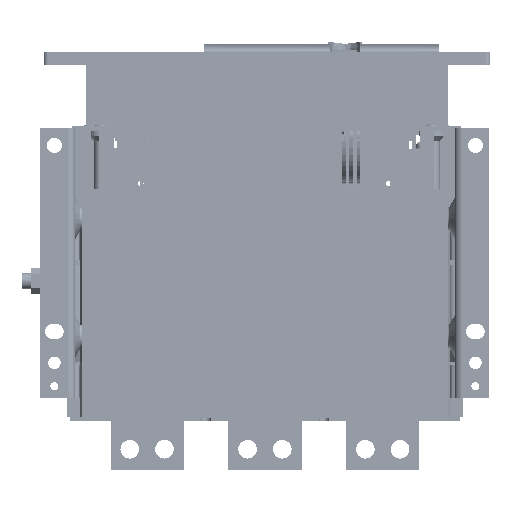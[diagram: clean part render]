
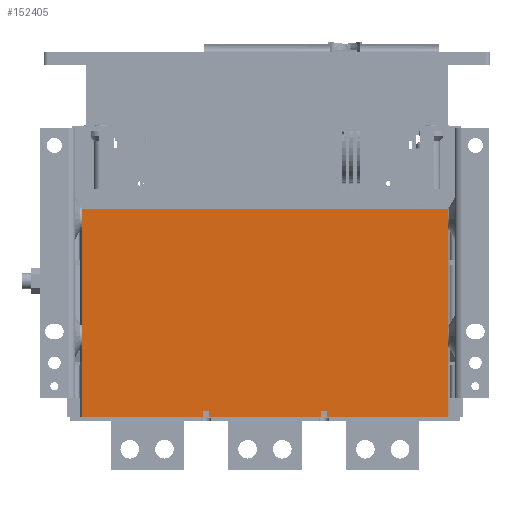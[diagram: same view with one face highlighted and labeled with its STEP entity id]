
A CAD part, front view. The second image highlights one B-rep face of the part: STEP entity #152405.
In plain terms, the highlighted planar face has unit normal (0, -1, 0) as drawn and (1, 0, 0) by its records, which use the part's own axes.
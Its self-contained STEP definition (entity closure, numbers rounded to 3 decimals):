
#2247 = LINE ( 'NONE', #18058, #71244 ) ;
#3174 = LINE ( 'NONE', #189476, #100888 ) ;
#3372 = VECTOR ( 'NONE', #123121, 1000. ) ;
#5387 = ORIENTED_EDGE ( 'NONE', *, *, #109257, .T. ) ;
#5960 = CARTESIAN_POINT ( 'NONE',  ( 358.258, -186.064, -285. ) ) ;
#10998 = CARTESIAN_POINT ( 'NONE',  ( 358.258, -91.064, -289.5 ) ) ;
#11435 = LINE ( 'NONE', #237650, #71003 ) ;
#13085 = DIRECTION ( 'NONE',  ( 0., 1., 0. ) ) ;
#18058 = CARTESIAN_POINT ( 'NONE',  ( 358.258, -181.064, -285. ) ) ;
#22394 = ORIENTED_EDGE ( 'NONE', *, *, #44425, .T. ) ;
#22545 = VECTOR ( 'NONE', #121316, 1000. ) ;
#23539 = CARTESIAN_POINT ( 'NONE',  ( 358.258, -86.064, -289.5 ) ) ;
#27279 = DIRECTION ( 'NONE',  ( 1., 0., 0. ) ) ;
#27827 = ORIENTED_EDGE ( 'NONE', *, *, #185588, .F. ) ;
#31966 = EDGE_CURVE ( 'NONE', #152436, #67648, #158277, .T. ) ;
#32913 = VERTEX_POINT ( 'NONE', #173850 ) ;
#41503 = CARTESIAN_POINT ( 'NONE',  ( 358.258, -91.064, -285. ) ) ;
#41544 = EDGE_CURVE ( 'NONE', #155580, #220242, #191593, .T. ) ;
#44425 = EDGE_CURVE ( 'NONE', #211890, #83813, #216328, .T. ) ;
#45066 = CARTESIAN_POINT ( 'NONE',  ( 358.258, -283.564, -289.5 ) ) ;
#47072 = CARTESIAN_POINT ( 'NONE',  ( 358.258, -86.064, -289.5 ) ) ;
#47800 = PLANE ( 'NONE',  #54264 ) ;
#47820 = ORIENTED_EDGE ( 'NONE', *, *, #139559, .T. ) ;
#54264 = AXIS2_PLACEMENT_3D ( 'NONE', #156708, #27279, #121601 ) ;
#62786 = VERTEX_POINT ( 'NONE', #71015 ) ;
#65114 = VECTOR ( 'NONE', #171157, 1000. ) ;
#66858 = CARTESIAN_POINT ( 'NONE',  ( 358.258, 11.436, -289.5 ) ) ;
#67648 = VERTEX_POINT ( 'NONE', #10998 ) ;
#67684 = VECTOR ( 'NONE', #203012, 1000. ) ;
#67723 = EDGE_LOOP ( 'NONE', ( #47820, #88885, #210046, #22394, #187975, #107531, #160482, #190885, #27827, #120628, #5387, #224756 ) ) ;
#71003 = VECTOR ( 'NONE', #106968, 1000. ) ;
#71015 = CARTESIAN_POINT ( 'NONE',  ( 358.258, -283.564, -122. ) ) ;
#71244 = VECTOR ( 'NONE', #72479, 1000. ) ;
#72479 = DIRECTION ( 'NONE',  ( 0., 0., -1. ) ) ;
#75604 = VERTEX_POINT ( 'NONE', #84113 ) ;
#76542 = EDGE_CURVE ( 'NONE', #83813, #103788, #216311, .T. ) ;
#78632 = DIRECTION ( 'NONE',  ( 0., 1., 0. ) ) ;
#79722 = CARTESIAN_POINT ( 'NONE',  ( 358.258, -86.064, -285. ) ) ;
#83521 = VERTEX_POINT ( 'NONE', #104091 ) ;
#83813 = VERTEX_POINT ( 'NONE', #79722 ) ;
#84113 = CARTESIAN_POINT ( 'NONE',  ( 358.258, -186.064, -289.5 ) ) ;
#85632 = CARTESIAN_POINT ( 'NONE',  ( 358.258, -86.064, -285. ) ) ;
#87503 = CARTESIAN_POINT ( 'NONE',  ( 358.258, -91.064, -289.5 ) ) ;
#87707 = FACE_OUTER_BOUND ( 'NONE', #67723, .T. ) ;
#88885 = ORIENTED_EDGE ( 'NONE', *, *, #31966, .T. ) ;
#89280 = VECTOR ( 'NONE', #13085, 1000. ) ;
#96239 = LINE ( 'NONE', #87503, #164226 ) ;
#100888 = VECTOR ( 'NONE', #167755, 1000. ) ;
#103788 = VERTEX_POINT ( 'NONE', #23539 ) ;
#104091 = CARTESIAN_POINT ( 'NONE',  ( 358.258, -181.064, -285. ) ) ;
#106968 = DIRECTION ( 'NONE',  ( 0., 0., 1. ) ) ;
#107531 = ORIENTED_EDGE ( 'NONE', *, *, #178719, .T. ) ;
#109257 = EDGE_CURVE ( 'NONE', #75604, #169786, #124383, .T. ) ;
#118853 = LINE ( 'NONE', #45066, #165675 ) ;
#120628 = ORIENTED_EDGE ( 'NONE', *, *, #149466, .T. ) ;
#121316 = DIRECTION ( 'NONE',  ( 0., 0., 1. ) ) ;
#121459 = VECTOR ( 'NONE', #236899, 1000. ) ;
#121601 = DIRECTION ( 'NONE',  ( 0., 1., 0. ) ) ;
#123121 = DIRECTION ( 'NONE',  ( 0., 0., -1. ) ) ;
#124366 = CARTESIAN_POINT ( 'NONE',  ( 358.258, -181.064, -289.5 ) ) ;
#124383 = LINE ( 'NONE', #147303, #67684 ) ;
#130080 = LINE ( 'NONE', #186963, #65114 ) ;
#138884 = CARTESIAN_POINT ( 'NONE',  ( 358.258, 11.436, -289.5 ) ) ;
#139559 = EDGE_CURVE ( 'NONE', #83521, #152436, #2247, .T. ) ;
#147303 = CARTESIAN_POINT ( 'NONE',  ( 358.258, -186.064, -289.5 ) ) ;
#149466 = EDGE_CURVE ( 'NONE', #32913, #75604, #118853, .T. ) ;
#152405 = ADVANCED_FACE ( 'NONE', ( #87707 ), #47800, .T. ) ;
#152436 = VERTEX_POINT ( 'NONE', #212386 ) ;
#155580 = VERTEX_POINT ( 'NONE', #138884 ) ;
#156708 = CARTESIAN_POINT ( 'NONE',  ( 358.258, 9.936, -200. ) ) ;
#158277 = LINE ( 'NONE', #124366, #89280 ) ;
#160482 = ORIENTED_EDGE ( 'NONE', *, *, #41544, .T. ) ;
#162205 = EDGE_CURVE ( 'NONE', #67648, #211890, #96239, .T. ) ;
#163055 = CARTESIAN_POINT ( 'NONE',  ( 358.258, -91.064, -285. ) ) ;
#164226 = VECTOR ( 'NONE', #221728, 1000. ) ;
#165675 = VECTOR ( 'NONE', #227820, 1000. ) ;
#167755 = DIRECTION ( 'NONE',  ( 0., 1., 0. ) ) ;
#169786 = VERTEX_POINT ( 'NONE', #5960 ) ;
#171157 = DIRECTION ( 'NONE',  ( 0., 1., 0. ) ) ;
#173850 = CARTESIAN_POINT ( 'NONE',  ( 358.258, -283.564, -289.5 ) ) ;
#177525 = EDGE_CURVE ( 'NONE', #169786, #83521, #130080, .T. ) ;
#178719 = EDGE_CURVE ( 'NONE', #103788, #155580, #212847, .T. ) ;
#185588 = EDGE_CURVE ( 'NONE', #32913, #62786, #11435, .T. ) ;
#186963 = CARTESIAN_POINT ( 'NONE',  ( 358.258, -186.064, -285. ) ) ;
#187975 = ORIENTED_EDGE ( 'NONE', *, *, #76542, .T. ) ;
#189476 = CARTESIAN_POINT ( 'NONE',  ( 358.258, -283.564, -122. ) ) ;
#190885 = ORIENTED_EDGE ( 'NONE', *, *, #207678, .F. ) ;
#191593 = LINE ( 'NONE', #66858, #22545 ) ;
#196776 = VECTOR ( 'NONE', #78632, 1000. ) ;
#203012 = DIRECTION ( 'NONE',  ( 0., 0., 1. ) ) ;
#207678 = EDGE_CURVE ( 'NONE', #62786, #220242, #3174, .T. ) ;
#210046 = ORIENTED_EDGE ( 'NONE', *, *, #162205, .T. ) ;
#211890 = VERTEX_POINT ( 'NONE', #41503 ) ;
#212386 = CARTESIAN_POINT ( 'NONE',  ( 358.258, -181.064, -289.5 ) ) ;
#212847 = LINE ( 'NONE', #47072, #196776 ) ;
#216311 = LINE ( 'NONE', #85632, #3372 ) ;
#216328 = LINE ( 'NONE', #163055, #121459 ) ;
#220242 = VERTEX_POINT ( 'NONE', #232822 ) ;
#221728 = DIRECTION ( 'NONE',  ( 0., 0., 1. ) ) ;
#224756 = ORIENTED_EDGE ( 'NONE', *, *, #177525, .T. ) ;
#227820 = DIRECTION ( 'NONE',  ( 0., 1., 0. ) ) ;
#232822 = CARTESIAN_POINT ( 'NONE',  ( 358.258, 11.436, -122. ) ) ;
#236899 = DIRECTION ( 'NONE',  ( 0., 1., 0. ) ) ;
#237650 = CARTESIAN_POINT ( 'NONE',  ( 358.258, -283.564, -289.5 ) ) ;
